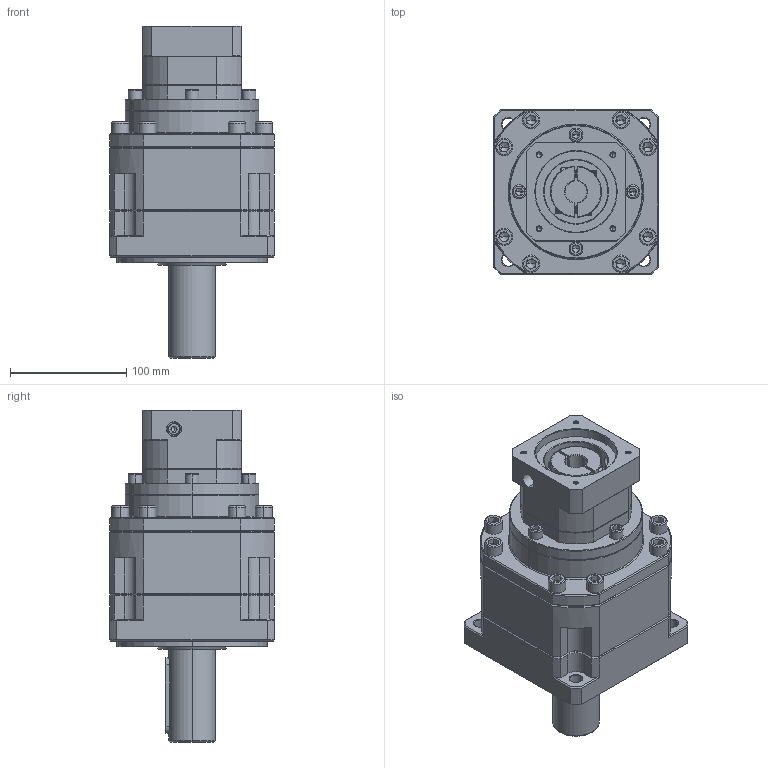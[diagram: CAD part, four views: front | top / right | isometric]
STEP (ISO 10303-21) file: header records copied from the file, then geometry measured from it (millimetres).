
FILE_DESCRIPTION (( 'STEP AP214' ), '1' );
FILE_NAME ('ZB142A-D40-L3-19-70-90-M5.step', '2023-03-18T08:15:59', ( '' ), ( '' ), 'SwSTEP 2.0', 'SolidWorks 2016', '' );
FILE_SCHEMA (( 'AUTOMOTIVE_DESIGN' ));
Length unit declared in the file: millimetre
Products named in the file (1): ZB142A-D40-L3-19-70-90-M5
Bounding box: 142 x 142 x 286.2 mm (x, y, z)
Volume: 2774818.9 mm3; surface area: 198425.2 mm2
Topology: 5 solids, 5 shells, 2233 faces, 5750 edges, 3630 vertices
Faces by surface type: plane 1046, cylinder 467, cone 360, bspline 314, torus 46
Entity records: 117541 total; most frequent: CARTESIAN_POINT 41459, ORIENTED_EDGE 11392, DIRECTION 9545, EDGE_CURVE 5696, VERTEX_POINT 3630, LINE 3567, VECTOR 3567, AXIS2_PLACEMENT_3D 2989
